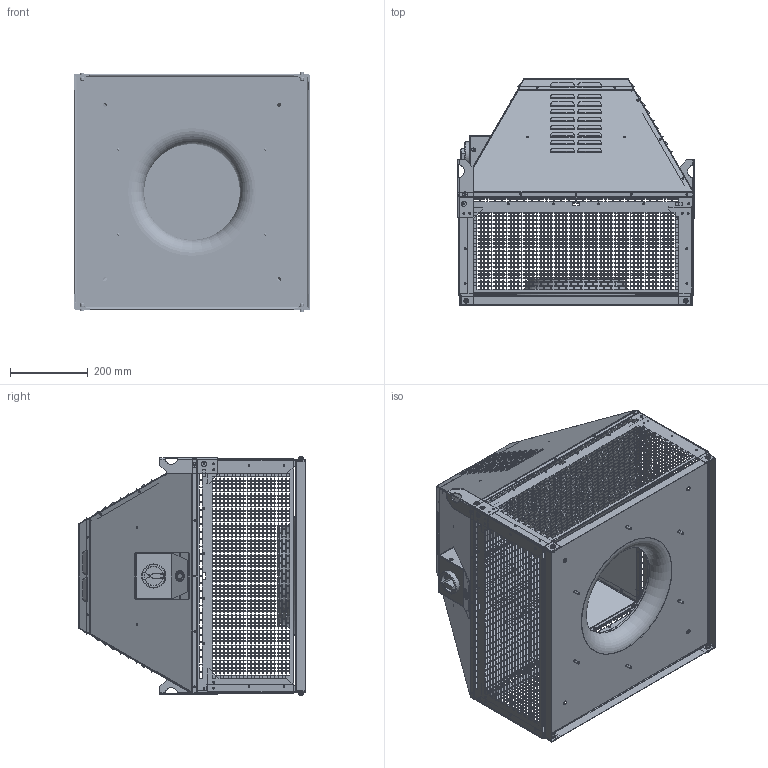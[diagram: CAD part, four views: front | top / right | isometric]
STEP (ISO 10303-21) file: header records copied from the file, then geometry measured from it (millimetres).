
FILE_DESCRIPTION (( 'STEP AP203' ), '1' );
FILE_NAME ('150727-00_DHN400D4F430_step.step', '2019-05-10T10:17:53', ( '' ), ( '' ), 'SwSTEP 2.0', 'SolidWorks 2017', '' );
FILE_SCHEMA (( 'CONFIG_CONTROL_DESIGN' ));
Products named in the file (1): 150727-00_DHN400D4F430_step
Bounding box: 610.3 x 583.29 x 617.3 mm (x, y, z)
Surface area: 3218525.3 mm2 (no closed solid volume)
Topology: 0 solids, 64 shells, 6505 faces, 30841 edges, 20667 vertices
Faces by surface type: plane 5853, cylinder 343, bspline 275, torus 22, cone 12
Full cylindrical faces by diameter (mm): 3.2 x18, 4.2 x74, 4.5 x63, 5.4 x4, 6 x10, 7.4 x6, 9 x4, 10 x2, 11 x4, 12 x4, 13 x8, 16 x1, 20 x2, 27.5 x1, 61 x1, 62 x1, 247 x1, 249 x1
Entity records: 351424 total; most frequent: CARTESIAN_POINT 109188, ORIENTED_EDGE 45306, DIRECTION 42689, EDGE_CURVE 30490, VECTOR 28607, LINE 28607, VERTEX_POINT 20666, EDGE_LOOP 11897
